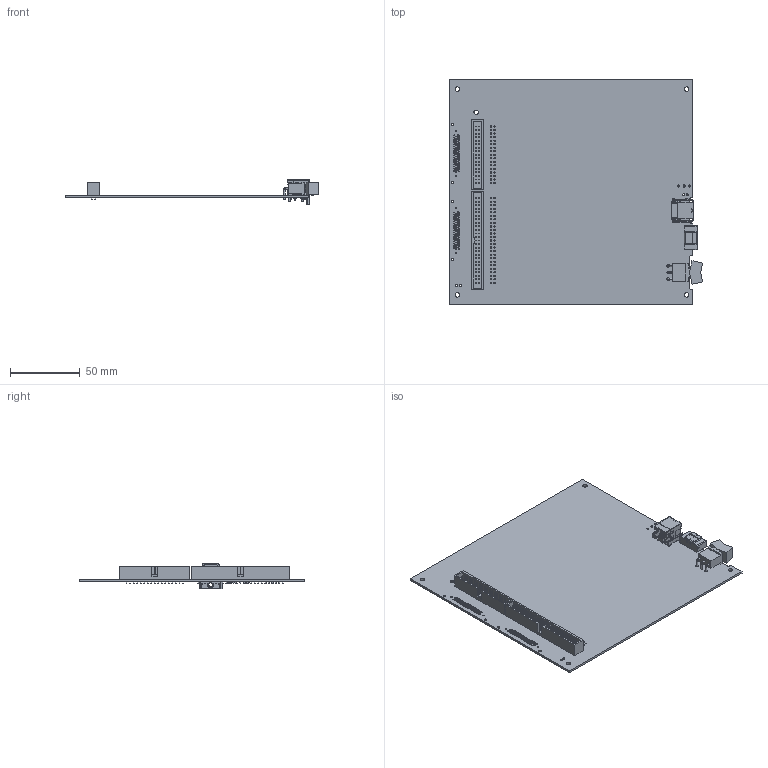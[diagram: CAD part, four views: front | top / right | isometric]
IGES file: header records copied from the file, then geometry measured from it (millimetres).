
Start section:  PTC IGES file: cu_usb_6341_6361_oem.igs
Global section: file name: cu_usb_6341_6361_oem.igs; native system: Pro/ENGINEER by Parametric Technology Corporation; preprocessor: 2010230; author: dkendric; organization: Unknown; date: 20120420.094228; units: inch
Bounding box: 182.3 x 162.56 x 18.36 mm (x, y, z)
Surface area: 70738.5 mm2 (no closed solid volume)
Topology: 0 solids, 0 shells, 2974 faces, 16491 edges, 16449 vertices
Faces by surface type: bspline 1928, revolution 1044, extrusion 2
